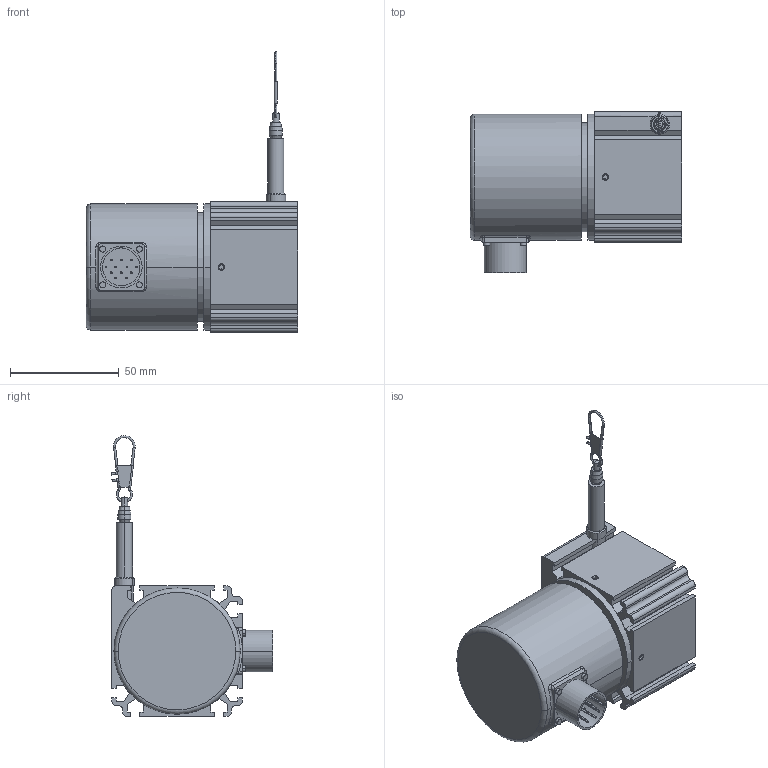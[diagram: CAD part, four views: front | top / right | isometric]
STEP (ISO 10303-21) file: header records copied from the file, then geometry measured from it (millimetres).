
FILE_DESCRIPTION((''),'2;1');
FILE_NAME('WDS-1500-SR-SSI_ASM','2012-10-11T',('15000411'),(''),'PRO/ENGINEER BY PARAMETRIC TECHNOLOGY CORPORATION, 2010020','PRO/ENGINEER BY PARAMETRIC TECHNOLOGY CORPORATION, 2010020','');
FILE_SCHEMA(('CONFIG_CONTROL_DESIGN'));
Length unit declared in the file: millimetre
Products named in the file (8): IVO_GM401_SSI__SR-E_SERVO_; KARABINKA; PROFIL; M3X3; VIKO_TELESA; PRUCHODKA_LANKA; ASM0001_ASM; WDS-1500-SR-SSI_ASM
Assembly tree (8 placements, depth 3):
  WDS-1500-SR-SSI_ASM
    ASM0001_ASM
      IVO_GM401_SSI__SR-E_SERVO_
      KARABINKA
      PROFIL
      M3X3  x2
      VIKO_TELESA
      PRUCHODKA_LANKA
Bounding box: 97 x 74.26 x 128.99 mm (x, y, z)
Volume: 199140.2 mm3; surface area: 50400.6 mm2
Topology: 7 solids, 7 shells, 323 faces, 817 edges, 528 vertices
Faces by surface type: plane 157, cylinder 112, torus 24, cone 24, bspline 4, sphere 2
Entity records: 10271 total; most frequent: CARTESIAN_POINT 2404, DIRECTION 1717, ORIENTED_EDGE 1550, EDGE_CURVE 775, AXIS2_PLACEMENT_3D 647, VERTEX_POINT 506, VECTOR 423, LINE 423
